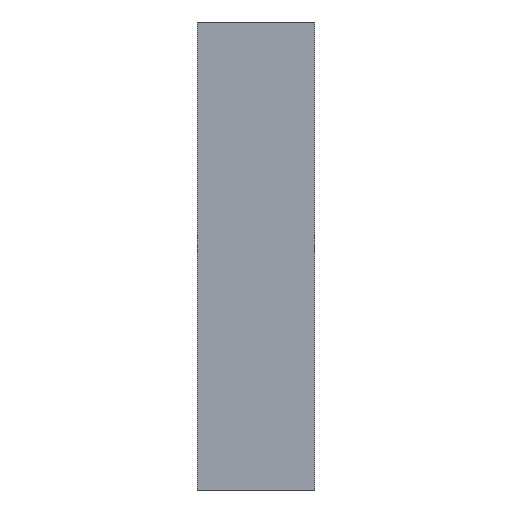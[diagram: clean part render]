
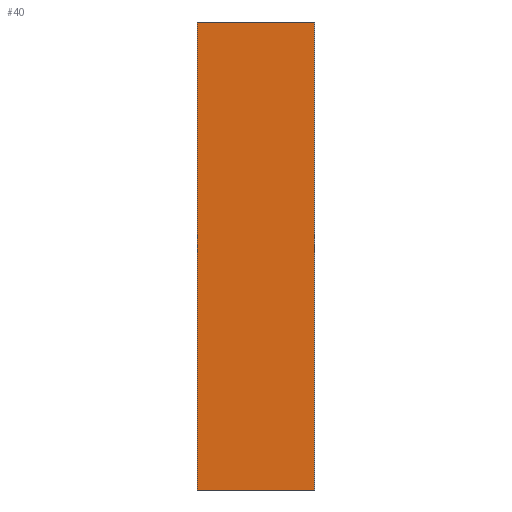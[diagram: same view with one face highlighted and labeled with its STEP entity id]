
A CAD part, left-side view. The second image highlights one B-rep face of the part: STEP entity #40.
In plain terms, the highlighted planar face has unit normal (-1, 0, 0).
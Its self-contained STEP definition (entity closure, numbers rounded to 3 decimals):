
#40=ADVANCED_FACE('',(#74),#75,.F.);
#74=FACE_OUTER_BOUND('',#99,.T.);
#75=PLANE('',#100);
#99=EDGE_LOOP('',(#143,#144,#145,#146));
#100=AXIS2_PLACEMENT_3D('',#147,#148,#149);
#143=ORIENTED_EDGE('',*,*,#164,.T.);
#144=ORIENTED_EDGE('',*,*,#162,.F.);
#145=ORIENTED_EDGE('',*,*,#166,.F.);
#146=ORIENTED_EDGE('',*,*,#152,.T.);
#147=CARTESIAN_POINT('',(0.0,8.2,-10.0));
#148=DIRECTION('',(1.0,0.0,0.0));
#149=DIRECTION('',(0.0,-1.0,0.0));
#152=EDGE_CURVE('',#172,#170,#173,.T.);
#162=EDGE_CURVE('',#186,#184,#188,.T.);
#164=EDGE_CURVE('',#170,#184,#190,.T.);
#166=EDGE_CURVE('',#172,#186,#192,.T.);
#170=VERTEX_POINT('',#196);
#172=VERTEX_POINT('',#199);
#173=LINE('',#200,#201);
#184=VERTEX_POINT('',#217);
#186=VERTEX_POINT('',#220);
#188=LINE('',#223,#224);
#190=LINE('',#226,#227);
#192=LINE('',#229,#230);
#196=CARTESIAN_POINT('',(0.0,5.2,-10.0));
#199=CARTESIAN_POINT('',(0.0,8.2,-10.0));
#200=CARTESIAN_POINT('',(0.0,8.2,-10.0));
#201=VECTOR('',#233,1.0);
#217=CARTESIAN_POINT('',(0.0,5.2,2.0));
#220=CARTESIAN_POINT('',(0.0,8.2,2.0));
#223=CARTESIAN_POINT('',(0.0,8.2,2.0));
#224=VECTOR('',#241,1.0);
#226=CARTESIAN_POINT('',(0.0,5.2,-10.0));
#227=VECTOR('',#242,1.0);
#229=CARTESIAN_POINT('',(0.0,8.2,-10.0));
#230=VECTOR('',#243,1.0);
#233=DIRECTION('',(0.0,-1.0,0.0));
#241=DIRECTION('',(0.0,-1.0,0.0));
#242=DIRECTION('',(0.0,0.0,1.0));
#243=DIRECTION('',(0.0,0.0,1.0));
